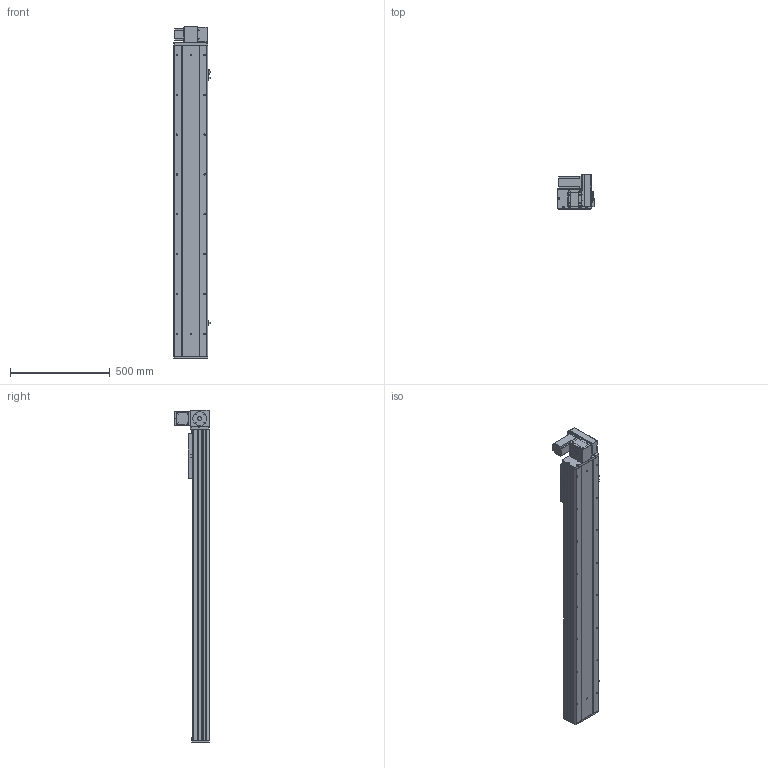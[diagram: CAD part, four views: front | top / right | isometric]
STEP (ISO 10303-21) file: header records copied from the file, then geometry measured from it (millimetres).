
FILE_DESCRIPTION (( 'STEP AP203' ), '1' );
FILE_NAME ('Y170CB-D105-S1250-UR-P400W.STEP', '2020-02-20T04:09:37', ( '微软用户' ), ( '微软中国' ), 'SwSTEP 2.0', 'SolidWorks 2017', '' );
FILE_SCHEMA (( 'CONFIG_CONTROL_DESIGN' ));
Length unit declared in the file: millimetre
Products named in the file (18): B-源倛裔啣; 00B-俋欶BM--163; 0C--雄赽釱俋欶-170; 0B-萇儂楊擘啣; 70B喘謫眊----; 70CB-詩湍--; san松下电机400不带刹车----; Y170CB-D105-S1250-UR-P400W; Y100-135俋离換覜ん--; 70CB-掛极-; --70CB --喘謫眊楊擘啣-; 70CB-耜裔啣-; Y170CB-陔俋离換覜結え---; 70C--詩湍揤踡え-; Y1埴倛裔; 70CB--耜裔; 17B-耜蚾蟀諉啣----; 70C-雄赽釱-奻-
Assembly tree (21 placements, depth 2):
  Y170CB-D105-S1250-UR-P400W
    B-源倛裔啣
    0B-萇儂楊擘啣
    san松下电机400不带刹车----
    70CB-掛极-
    --70CB --喘謫眊楊擘啣-
    70CB-耜裔啣-  x2
    70C--詩湍揤踡え-  x2
    70CB--耜裔
    70C-雄赽釱-奻-
    0C--雄赽釱俋欶-170
    70CB-詩湍--
    Y100-135俋离換覜ん--  x3
    Y170CB-陔俋离換覜結え---
    Y1埴倛裔
    17B-耜蚾蟀諉啣----
    00B-俋欶BM--163
    70B喘謫眊----
Bounding box: 183.5 x 174 x 1666 mm (x, y, z)
Volume: 7524228.9 mm3; surface area: 2702059.9 mm2
Topology: 21 solids, 21 shells, 1015 faces, 2717 edges, 1802 vertices
Faces by surface type: cylinder 529, plane 462, cone 24
Entity records: 32328 total; most frequent: CARTESIAN_POINT 5916, DIRECTION 5258, ORIENTED_EDGE 4916, EDGE_CURVE 2458, AXIS2_PLACEMENT_3D 1928, VERTEX_POINT 1632, LINE 1402, VECTOR 1402
